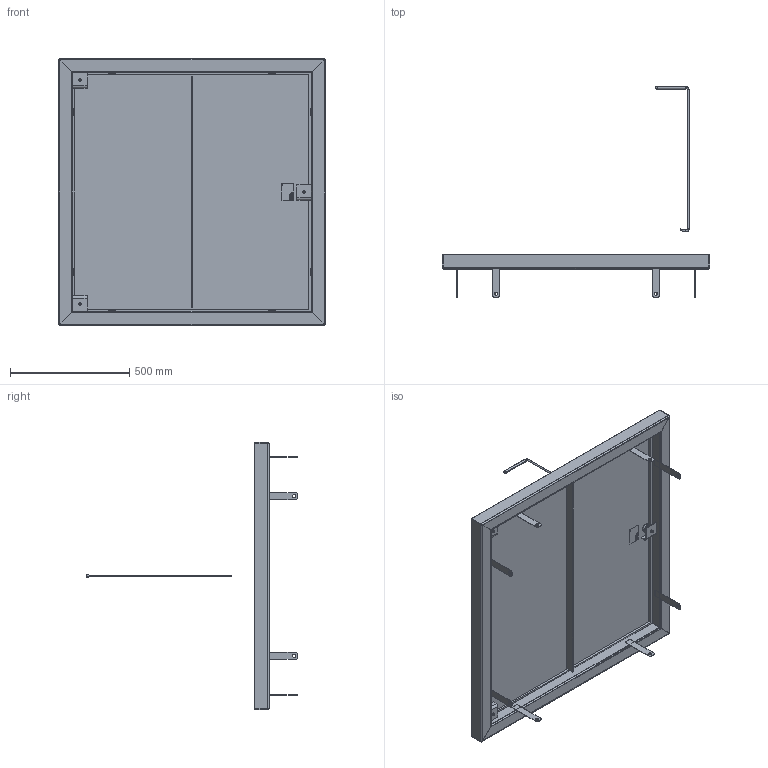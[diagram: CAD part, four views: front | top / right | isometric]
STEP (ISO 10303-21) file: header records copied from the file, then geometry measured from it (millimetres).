
FILE_DESCRIPTION((''),'2;1');
FILE_NAME('51300750_ASM','2023-08-31T12:08:11',('hil'),('HUBER SE'),'CREO PARAMETRIC BY PTC INC, 2022162','CREO PARAMETRIC BY PTC INC, 2022162','');
FILE_SCHEMA(('AUTOMOTIVE_DESIGN { 1 0 10303 214 1 1 1 1 }'));
Length unit declared in the file: millimetre
Products named in the file (15): 51293219; 51300752; 510184; 500539; 51293222; 500398; 51300751_ASM; 702444; 702729; 51273687; 51704731; 51785295_ASM; 51300750-100; 706610; 51300750_ASM
Assembly tree (32 placements, depth 3):
  51300750_ASM
    51300751_ASM
      51293219  x4
      51300752
      510184  x3
      500539  x3
      51293222
      500398  x8
    702444  x3
    702729  x3
    51785295_ASM
      51273687
      51704731
    51300750-100
    706610
Bounding box: 1120 x 885.91 x 1120 mm (x, y, z)
Volume: 6812621.2 mm3; surface area: 4519722.9 mm2
Topology: 30 solids, 39 shells, 1275 faces, 3287 edges, 2139 vertices
Faces by surface type: plane 769, extrusion 270, cylinder 164, bspline 24, cone 24, torus 22, sphere 2
Entity records: 50321 total; most frequent: CARTESIAN_POINT 10183, ORIENTED_EDGE 5338, DIRECTION 4087, EDGE_CURVE 2675, PRESENTATION_STYLE_ASSIGNMENT 2420, STYLED_ITEM 2386, CURVE_STYLE 2381, VECTOR 2235
